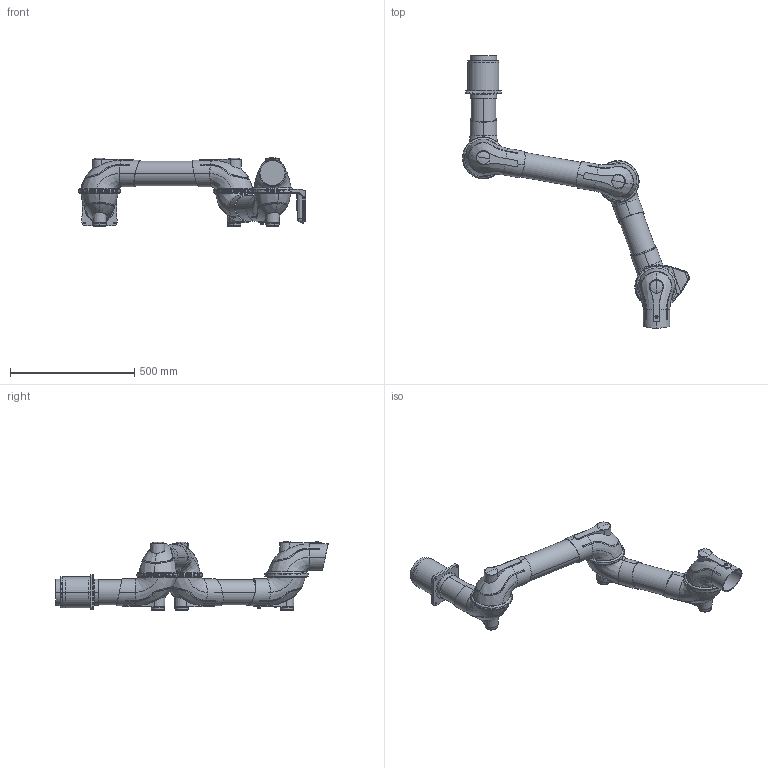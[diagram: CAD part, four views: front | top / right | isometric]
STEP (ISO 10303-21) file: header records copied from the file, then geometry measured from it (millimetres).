
FILE_DESCRIPTION((''),'2;1');
FILE_NAME('100330','2015-01-09T',('Tomas Bellgran'),(''),'PRO/ENGINEER BY PARAMETRIC TECHNOLOGY CORPORATION, 2013410','PRO/ENGINEER BY PARAMETRIC TECHNOLOGY CORPORATION, 2013410','');
FILE_SCHEMA(('AUTOMOTIVE_DESIGN { 1 0 10303 214 1 1 1 1 }'));
Length unit declared in the file: millimetre
Products named in the file (21): 100945; 100252; 100940; 100935; 100249; 100001; 100322; 100264; 100261; 100006; 100276; 100002_AF13; 100291; 100001_AF8; 105-5481; 101156; 105-5810; 102135; 102086; 100337; 100330
Assembly tree (28 placements, depth 4):
  100330
    100322
      100945
      100252
      100940
      100935  x2
      100249
      100001
    100261
      100001  x2
      100264
    100276
      100006
      100001
    102086
      100002_AF13
      100291
      100001_AF8
      101156
        105-5481
      102135  x2
        105-5810
    100337  x2
    101156  x2
      105-5481
Bounding box: 912.74 x 1094.85 x 280.35 mm (x, y, z)
Volume: 20415415.6 mm3; surface area: 1500415.1 mm2
Topology: 22 solids, 24 shells, 848 faces, 2071 edges, 1296 vertices
Faces by surface type: bspline 286, plane 235, cylinder 150, cone 108, torus 32, sphere 29, revolution 5, extrusion 3
Entity records: 39876 total; most frequent: CARTESIAN_POINT 18192, ORIENTED_EDGE 2426, DIRECTION 1988, PRESENTATION_STYLE_ASSIGNMENT 1404, STYLED_ITEM 1395, CURVE_STYLE 1213, EDGE_CURVE 1213, PROPERTY_DEFINITION 958
